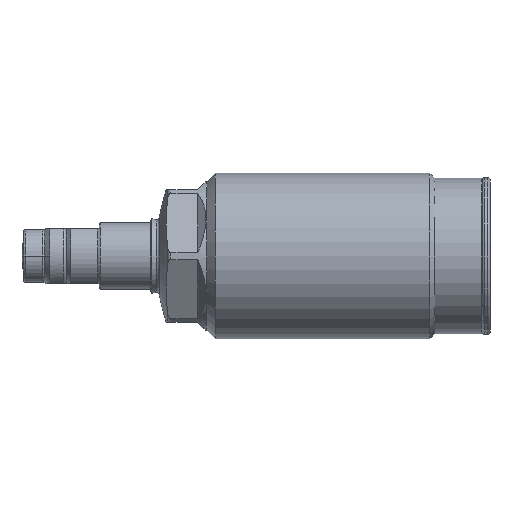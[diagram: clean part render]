
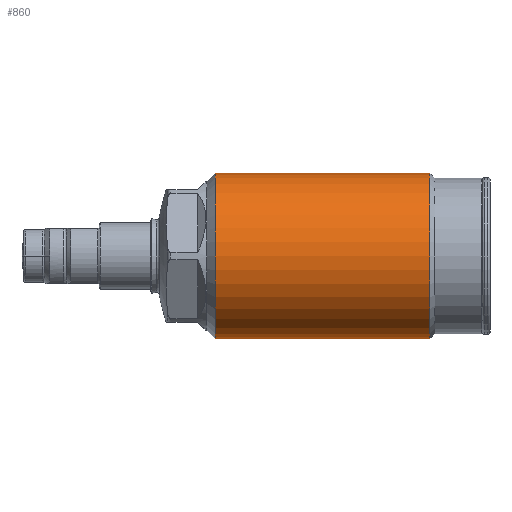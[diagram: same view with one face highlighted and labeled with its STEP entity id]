
A CAD part, left-side view. The second image highlights one B-rep face of the part: STEP entity #860.
In plain terms, the highlighted cylindrical face has radius 15 mm (diameter 30 mm), a partial arc.
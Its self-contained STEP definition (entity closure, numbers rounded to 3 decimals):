
#457=CYLINDRICAL_SURFACE('',#3707,15.);
#521=LINE('',#5393,#653);
#522=LINE('',#5397,#654);
#653=VECTOR('',#4311,1.);
#654=VECTOR('',#4314,1.);
#860=ADVANCED_FACE('',(#1124),#457,.T.);
#1124=FACE_OUTER_BOUND('',#1334,.T.);
#1334=EDGE_LOOP('',(#1935,#1936,#1937,#1938));
#1935=ORIENTED_EDGE('',*,*,#2829,.T.);
#1936=ORIENTED_EDGE('',*,*,#2954,.T.);
#1937=ORIENTED_EDGE('',*,*,#2831,.F.);
#1938=ORIENTED_EDGE('',*,*,#2953,.F.);
#2487=VERTEX_POINT('',#5388);
#2488=VERTEX_POINT('',#5390);
#2489=VERTEX_POINT('',#5394);
#2490=VERTEX_POINT('',#5396);
#2829=EDGE_CURVE('',#2489,#2487,#521,.T.);
#2831=EDGE_CURVE('',#2490,#2488,#522,.T.);
#2953=EDGE_CURVE('',#2489,#2490,#3317,.T.);
#2954=EDGE_CURVE('',#2487,#2488,#3318,.T.);
#3317=CIRCLE('',#3704,15.);
#3318=CIRCLE('',#3706,15.);
#3704=AXIS2_PLACEMENT_3D('',#5867,#4557,#4558);
#3706=AXIS2_PLACEMENT_3D('',#5869,#4561,#4562);
#3707=AXIS2_PLACEMENT_3D('',#5870,#4563,#4564);
#4311=DIRECTION('',(0.,1.,0.));
#4314=DIRECTION('',(0.,1.,0.));
#4557=DIRECTION('',(0.,-1.,0.));
#4558=DIRECTION('',(0.,0.,-1.));
#4561=DIRECTION('',(0.,-1.,0.));
#4562=DIRECTION('',(0.,0.,-1.));
#4563=DIRECTION('',(0.,-1.,0.));
#4564=DIRECTION('',(0.,0.,-1.));
#5388=CARTESIAN_POINT('',(43.752,56.228,15.));
#5390=CARTESIAN_POINT('',(43.752,56.228,-15.));
#5393=CARTESIAN_POINT('',(43.752,2.995,15.));
#5394=CARTESIAN_POINT('',(43.752,17.228,15.));
#5396=CARTESIAN_POINT('',(43.752,17.228,-15.));
#5397=CARTESIAN_POINT('',(43.752,2.995,-15.));
#5867=CARTESIAN_POINT('',(43.752,17.228,0.));
#5869=CARTESIAN_POINT('',(43.752,56.228,0.));
#5870=CARTESIAN_POINT('',(43.752,2.995,0.));
